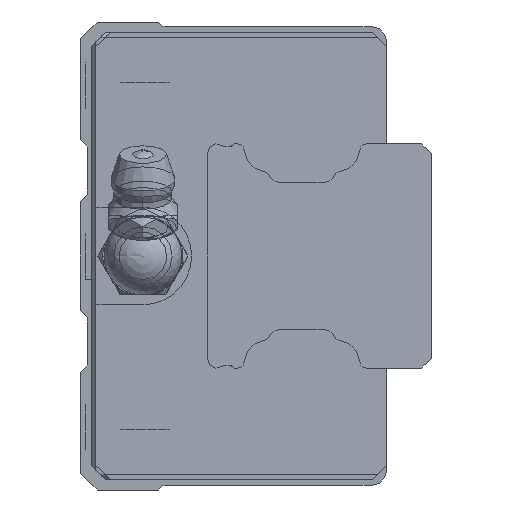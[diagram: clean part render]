
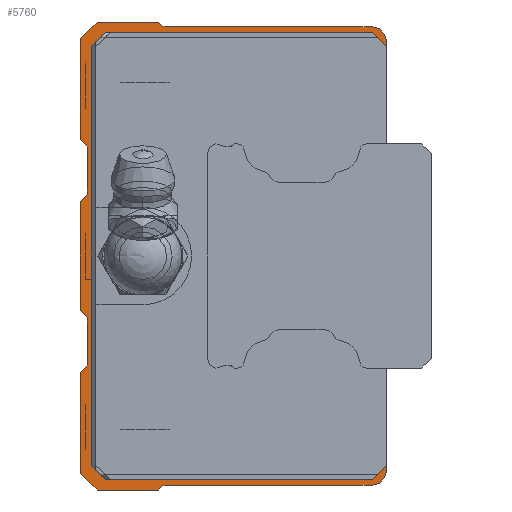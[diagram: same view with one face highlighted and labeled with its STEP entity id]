
A CAD part, left-side view. The second image highlights one B-rep face of the part: STEP entity #5760.
In plain terms, the highlighted planar face has unit normal (-1, 0, 0).
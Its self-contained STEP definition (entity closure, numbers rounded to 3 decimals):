
#107=LINE('',#9056,#457);
#116=LINE('',#9075,#466);
#123=LINE('',#9088,#473);
#149=LINE('',#9144,#499);
#157=LINE('',#9160,#507);
#163=LINE('',#9172,#513);
#188=LINE('',#9223,#538);
#193=LINE('',#9232,#543);
#195=LINE('',#9236,#545);
#216=LINE('',#9326,#566);
#220=LINE('',#9335,#570);
#223=LINE('',#9341,#573);
#227=LINE('',#9353,#577);
#231=LINE('',#9368,#581);
#235=LINE('',#9380,#585);
#238=LINE('',#9386,#588);
#241=LINE('',#9392,#591);
#244=LINE('',#9402,#594);
#247=LINE('',#9408,#597);
#251=LINE('',#9420,#601);
#255=LINE('',#9432,#605);
#258=LINE('',#9442,#608);
#261=LINE('',#9448,#611);
#265=LINE('',#9460,#615);
#269=LINE('',#9472,#619);
#272=LINE('',#9482,#622);
#457=VECTOR('',#7070,1000.);
#466=VECTOR('',#7085,1000.);
#473=VECTOR('',#7096,1000.);
#499=VECTOR('',#7136,1000.);
#507=VECTOR('',#7148,1000.);
#513=VECTOR('',#7160,1000.);
#538=VECTOR('',#7201,1000.);
#543=VECTOR('',#7208,1000.);
#545=VECTOR('',#7212,1000.);
#566=VECTOR('',#7287,1000.);
#570=VECTOR('',#7293,1000.);
#573=VECTOR('',#7298,1000.);
#577=VECTOR('',#7310,1000.);
#581=VECTOR('',#7328,1000.);
#585=VECTOR('',#7340,1000.);
#588=VECTOR('',#7345,1000.);
#591=VECTOR('',#7350,1000.);
#594=VECTOR('',#7359,1000.);
#597=VECTOR('',#7364,1000.);
#601=VECTOR('',#7376,1000.);
#605=VECTOR('',#7388,1000.);
#608=VECTOR('',#7397,1000.);
#611=VECTOR('',#7402,1000.);
#615=VECTOR('',#7414,1000.);
#619=VECTOR('',#7426,1000.);
#622=VECTOR('',#7435,1000.);
#813=PLANE('',#6270);
#1169=CIRCLE('',#6226,0.5);
#1171=CIRCLE('',#6230,1.5);
#1173=CIRCLE('',#6233,1.5);
#1175=CIRCLE('',#6237,0.5);
#1179=CIRCLE('',#6247,0.5);
#1181=CIRCLE('',#6251,0.5);
#1185=CIRCLE('',#6259,0.5);
#1187=CIRCLE('',#6263,0.5);
#1991=ORIENTED_EDGE('',*,*,#3099,.T.);
#1992=ORIENTED_EDGE('',*,*,#3106,.T.);
#1993=ORIENTED_EDGE('',*,*,#3179,.F.);
#1994=ORIENTED_EDGE('',*,*,#3243,.F.);
#1995=ORIENTED_EDGE('',*,*,#3240,.F.);
#1996=ORIENTED_EDGE('',*,*,#3237,.T.);
#1997=ORIENTED_EDGE('',*,*,#3234,.F.);
#1998=ORIENTED_EDGE('',*,*,#3231,.F.);
#1999=ORIENTED_EDGE('',*,*,#3227,.F.);
#2000=ORIENTED_EDGE('',*,*,#3305,.F.);
#2001=ORIENTED_EDGE('',*,*,#3300,.F.);
#2002=ORIENTED_EDGE('',*,*,#3297,.T.);
#2003=ORIENTED_EDGE('',*,*,#3294,.F.);
#2004=ORIENTED_EDGE('',*,*,#3291,.T.);
#2005=ORIENTED_EDGE('',*,*,#3288,.F.);
#2006=ORIENTED_EDGE('',*,*,#3285,.F.);
#2007=ORIENTED_EDGE('',*,*,#3280,.F.);
#2008=ORIENTED_EDGE('',*,*,#3277,.T.);
#2009=ORIENTED_EDGE('',*,*,#3274,.F.);
#2010=ORIENTED_EDGE('',*,*,#3271,.T.);
#2011=ORIENTED_EDGE('',*,*,#3268,.F.);
#2012=ORIENTED_EDGE('',*,*,#3265,.F.);
#2013=ORIENTED_EDGE('',*,*,#3260,.F.);
#2014=ORIENTED_EDGE('',*,*,#3257,.F.);
#2015=ORIENTED_EDGE('',*,*,#3254,.F.);
#2016=ORIENTED_EDGE('',*,*,#3251,.T.);
#2017=ORIENTED_EDGE('',*,*,#3248,.F.);
#2018=ORIENTED_EDGE('',*,*,#3245,.F.);
#2019=ORIENTED_EDGE('',*,*,#3181,.F.);
#2020=ORIENTED_EDGE('',*,*,#3141,.T.);
#2021=ORIENTED_EDGE('',*,*,#3148,.T.);
#2022=ORIENTED_EDGE('',*,*,#3133,.T.);
#2023=ORIENTED_EDGE('',*,*,#3174,.T.);
#2024=ORIENTED_EDGE('',*,*,#3089,.T.);
#3089=EDGE_CURVE('',#3809,#3808,#107,.T.);
#3099=EDGE_CURVE('',#3808,#3815,#116,.T.);
#3106=EDGE_CURVE('',#3815,#3819,#123,.T.);
#3133=EDGE_CURVE('',#3843,#3842,#149,.T.);
#3141=EDGE_CURVE('',#3849,#3848,#157,.T.);
#3148=EDGE_CURVE('',#3848,#3843,#163,.T.);
#3174=EDGE_CURVE('',#3842,#3809,#188,.T.);
#3179=EDGE_CURVE('',#3872,#3819,#193,.T.);
#3181=EDGE_CURVE('',#3849,#3874,#195,.T.);
#3227=EDGE_CURVE('',#3916,#3917,#216,.T.);
#3231=EDGE_CURVE('',#3917,#3920,#220,.T.);
#3234=EDGE_CURVE('',#3920,#3922,#223,.T.);
#3237=EDGE_CURVE('',#3924,#3922,#1169,.T.);
#3240=EDGE_CURVE('',#3924,#3926,#227,.T.);
#3243=EDGE_CURVE('',#3926,#3872,#1171,.T.);
#3245=EDGE_CURVE('',#3874,#3928,#1173,.T.);
#3248=EDGE_CURVE('',#3928,#3930,#231,.T.);
#3251=EDGE_CURVE('',#3932,#3930,#1175,.T.);
#3254=EDGE_CURVE('',#3932,#3934,#235,.T.);
#3257=EDGE_CURVE('',#3934,#3936,#238,.T.);
#3260=EDGE_CURVE('',#3936,#3938,#241,.T.);
#3265=EDGE_CURVE('',#3938,#3942,#244,.T.);
#3268=EDGE_CURVE('',#3942,#3944,#247,.T.);
#3271=EDGE_CURVE('',#3946,#3944,#1179,.T.);
#3274=EDGE_CURVE('',#3946,#3948,#251,.T.);
#3277=EDGE_CURVE('',#3950,#3948,#1181,.T.);
#3280=EDGE_CURVE('',#3950,#3952,#255,.T.);
#3285=EDGE_CURVE('',#3952,#3956,#258,.T.);
#3288=EDGE_CURVE('',#3956,#3958,#261,.T.);
#3291=EDGE_CURVE('',#3960,#3958,#1185,.T.);
#3294=EDGE_CURVE('',#3960,#3962,#265,.T.);
#3297=EDGE_CURVE('',#3964,#3962,#1187,.T.);
#3300=EDGE_CURVE('',#3964,#3966,#269,.T.);
#3305=EDGE_CURVE('',#3966,#3916,#272,.T.);
#3808=VERTEX_POINT('',#9055);
#3809=VERTEX_POINT('',#9057);
#3815=VERTEX_POINT('',#9074);
#3819=VERTEX_POINT('',#9087);
#3842=VERTEX_POINT('',#9143);
#3843=VERTEX_POINT('',#9145);
#3848=VERTEX_POINT('',#9159);
#3849=VERTEX_POINT('',#9161);
#3872=VERTEX_POINT('',#9231);
#3874=VERTEX_POINT('',#9237);
#3916=VERTEX_POINT('',#9327);
#3917=VERTEX_POINT('',#9328);
#3920=VERTEX_POINT('',#9336);
#3922=VERTEX_POINT('',#9342);
#3924=VERTEX_POINT('',#9348);
#3926=VERTEX_POINT('',#9354);
#3928=VERTEX_POINT('',#9363);
#3930=VERTEX_POINT('',#9369);
#3932=VERTEX_POINT('',#9375);
#3934=VERTEX_POINT('',#9381);
#3936=VERTEX_POINT('',#9387);
#3938=VERTEX_POINT('',#9393);
#3942=VERTEX_POINT('',#9403);
#3944=VERTEX_POINT('',#9409);
#3946=VERTEX_POINT('',#9415);
#3948=VERTEX_POINT('',#9421);
#3950=VERTEX_POINT('',#9427);
#3952=VERTEX_POINT('',#9433);
#3956=VERTEX_POINT('',#9443);
#3958=VERTEX_POINT('',#9449);
#3960=VERTEX_POINT('',#9455);
#3962=VERTEX_POINT('',#9461);
#3964=VERTEX_POINT('',#9467);
#3966=VERTEX_POINT('',#9473);
#4418=EDGE_LOOP('',(#1991,#1992,#1993,#1994,#1995,#1996,#1997,#1998,#1999,
#2000,#2001,#2002,#2003,#2004,#2005,#2006,#2007,#2008,#2009,#2010,#2011,
#2012,#2013,#2014,#2015,#2016,#2017,#2018,#2019,#2020,#2021,#2022,#2023,
#2024));
#5083=FACE_BOUND('',#4418,.T.);
#5760=ADVANCED_FACE('',(#5083),#813,.F.);
#6226=AXIS2_PLACEMENT_3D('',#9347,#7303,#7304);
#6230=AXIS2_PLACEMENT_3D('',#9359,#7315,#7316);
#6233=AXIS2_PLACEMENT_3D('',#9362,#7321,#7322);
#6237=AXIS2_PLACEMENT_3D('',#9374,#7333,#7334);
#6247=AXIS2_PLACEMENT_3D('',#9414,#7369,#7370);
#6251=AXIS2_PLACEMENT_3D('',#9426,#7381,#7382);
#6259=AXIS2_PLACEMENT_3D('',#9454,#7407,#7408);
#6263=AXIS2_PLACEMENT_3D('',#9466,#7419,#7420);
#6270=AXIS2_PLACEMENT_3D('',#9485,#7439,#7440);
#7070=DIRECTION('',(0.,-0.707,0.707));
#7085=DIRECTION('',(0.,-1.,0.));
#7096=DIRECTION('',(0.,-0.707,-0.707));
#7136=DIRECTION('',(0.,0.707,0.707));
#7148=DIRECTION('',(0.,0.707,-0.707));
#7160=DIRECTION('',(0.,1.,0.));
#7201=DIRECTION('',(0.,0.,1.));
#7208=DIRECTION('',(0.,0.,-1.));
#7212=DIRECTION('',(0.,0.,-1.));
#7287=DIRECTION('',(0.,-0.707,0.707));
#7293=DIRECTION('',(0.,-1.,0.));
#7298=DIRECTION('',(0.,-0.707,-0.707));
#7303=DIRECTION('',(1.,0.,0.));
#7304=DIRECTION('',(0.,0.,-1.));
#7310=DIRECTION('',(0.,-1.,0.));
#7315=DIRECTION('',(1.,0.,0.));
#7316=DIRECTION('',(0.,0.,-1.));
#7321=DIRECTION('',(1.,0.,0.));
#7322=DIRECTION('',(0.,0.,-1.));
#7328=DIRECTION('',(0.,1.,0.));
#7333=DIRECTION('',(1.,0.,0.));
#7334=DIRECTION('',(0.,0.,-1.));
#7340=DIRECTION('',(0.,0.707,-0.707));
#7345=DIRECTION('',(0.,1.,0.));
#7350=DIRECTION('',(0.,0.707,0.707));
#7359=DIRECTION('',(0.,0.,1.));
#7364=DIRECTION('',(0.,-0.707,0.707));
#7369=DIRECTION('',(1.,0.,0.));
#7370=DIRECTION('',(0.,0.,-1.));
#7376=DIRECTION('',(0.,0.,1.));
#7381=DIRECTION('',(1.,0.,0.));
#7382=DIRECTION('',(0.,0.,-1.));
#7388=DIRECTION('',(0.,0.707,0.707));
#7397=DIRECTION('',(0.,0.,1.));
#7402=DIRECTION('',(0.,-0.707,0.707));
#7407=DIRECTION('',(1.,0.,0.));
#7408=DIRECTION('',(0.,0.,-1.));
#7414=DIRECTION('',(0.,0.,1.));
#7419=DIRECTION('',(1.,0.,0.));
#7420=DIRECTION('',(0.,0.,-1.));
#7426=DIRECTION('',(0.,0.707,0.707));
#7435=DIRECTION('',(0.,0.,1.));
#7439=DIRECTION('',(1.,0.,0.));
#7440=DIRECTION('',(0.,0.,-1.));
#9055=CARTESIAN_POINT('',(-30.,28.82,22.95));
#9056=CARTESIAN_POINT('',(-30.,30.32,21.45));
#9057=CARTESIAN_POINT('',(-30.,30.32,21.45));
#9074=CARTESIAN_POINT('',(-30.,1.5,22.95));
#9075=CARTESIAN_POINT('',(-30.,28.82,22.95));
#9087=CARTESIAN_POINT('',(-30.,0.,21.45));
#9088=CARTESIAN_POINT('',(-30.,1.5,22.95));
#9143=CARTESIAN_POINT('',(-30.,30.32,-21.45));
#9144=CARTESIAN_POINT('',(-30.,28.82,-22.95));
#9145=CARTESIAN_POINT('',(-30.,28.82,-22.95));
#9159=CARTESIAN_POINT('',(-30.,1.5,-22.95));
#9160=CARTESIAN_POINT('',(-30.,0.,-21.45));
#9161=CARTESIAN_POINT('',(-30.,0.,-21.45));
#9172=CARTESIAN_POINT('',(-30.,1.5,-22.95));
#9223=CARTESIAN_POINT('',(-30.,30.32,-21.45));
#9231=CARTESIAN_POINT('',(-30.,0.,22.));
#9232=CARTESIAN_POINT('',(-30.,0.,22.));
#9236=CARTESIAN_POINT('',(-30.,0.,22.));
#9237=CARTESIAN_POINT('',(-30.,0.,-22.));
#9326=CARTESIAN_POINT('',(-30.,31.4,22.3));
#9327=CARTESIAN_POINT('',(-30.,31.4,22.3));
#9328=CARTESIAN_POINT('',(-30.,29.7,24.));
#9335=CARTESIAN_POINT('',(-30.,29.7,24.));
#9336=CARTESIAN_POINT('',(-30.,23.4,24.));
#9341=CARTESIAN_POINT('',(-30.,23.4,24.));
#9342=CARTESIAN_POINT('',(-30.,23.046,23.646));
#9347=CARTESIAN_POINT('',(-30.,22.693,24.));
#9348=CARTESIAN_POINT('',(-30.,22.693,23.5));
#9353=CARTESIAN_POINT('',(-30.,22.693,23.5));
#9354=CARTESIAN_POINT('',(-30.,1.5,23.5));
#9359=CARTESIAN_POINT('',(-30.,1.5,22.));
#9362=CARTESIAN_POINT('',(-30.,1.5,-22.));
#9363=CARTESIAN_POINT('',(-30.,1.5,-23.5));
#9368=CARTESIAN_POINT('',(-30.,1.5,-23.5));
#9369=CARTESIAN_POINT('',(-30.,22.693,-23.5));
#9374=CARTESIAN_POINT('',(-30.,22.693,-24.));
#9375=CARTESIAN_POINT('',(-30.,23.046,-23.646));
#9380=CARTESIAN_POINT('',(-30.,23.046,-23.646));
#9381=CARTESIAN_POINT('',(-30.,23.4,-24.));
#9386=CARTESIAN_POINT('',(-30.,23.4,-24.));
#9387=CARTESIAN_POINT('',(-30.,29.7,-24.));
#9392=CARTESIAN_POINT('',(-30.,29.7,-24.));
#9393=CARTESIAN_POINT('',(-30.,31.4,-22.3));
#9402=CARTESIAN_POINT('',(-30.,31.4,-22.3));
#9403=CARTESIAN_POINT('',(-30.,31.4,-11.95));
#9408=CARTESIAN_POINT('',(-30.,31.4,-11.95));
#9409=CARTESIAN_POINT('',(-30.,30.846,-11.396));
#9414=CARTESIAN_POINT('',(-30.,31.2,-11.043));
#9415=CARTESIAN_POINT('',(-30.,30.7,-11.043));
#9420=CARTESIAN_POINT('',(-30.,30.7,-11.043));
#9421=CARTESIAN_POINT('',(-30.,30.7,-6.457));
#9426=CARTESIAN_POINT('',(-30.,31.2,-6.457));
#9427=CARTESIAN_POINT('',(-30.,30.846,-6.104));
#9432=CARTESIAN_POINT('',(-30.,30.846,-6.104));
#9433=CARTESIAN_POINT('',(-30.,31.4,-5.55));
#9442=CARTESIAN_POINT('',(-30.,31.4,-5.55));
#9443=CARTESIAN_POINT('',(-30.,31.4,5.55));
#9448=CARTESIAN_POINT('',(-30.,31.4,5.55));
#9449=CARTESIAN_POINT('',(-30.,30.846,6.104));
#9454=CARTESIAN_POINT('',(-30.,31.2,6.457));
#9455=CARTESIAN_POINT('',(-30.,30.7,6.457));
#9460=CARTESIAN_POINT('',(-30.,30.7,6.457));
#9461=CARTESIAN_POINT('',(-30.,30.7,11.043));
#9466=CARTESIAN_POINT('',(-30.,31.2,11.043));
#9467=CARTESIAN_POINT('',(-30.,30.846,11.396));
#9472=CARTESIAN_POINT('',(-30.,30.846,11.396));
#9473=CARTESIAN_POINT('',(-30.,31.4,11.95));
#9482=CARTESIAN_POINT('',(-30.,31.4,11.95));
#9485=CARTESIAN_POINT('',(-30.,22.693,24.));
